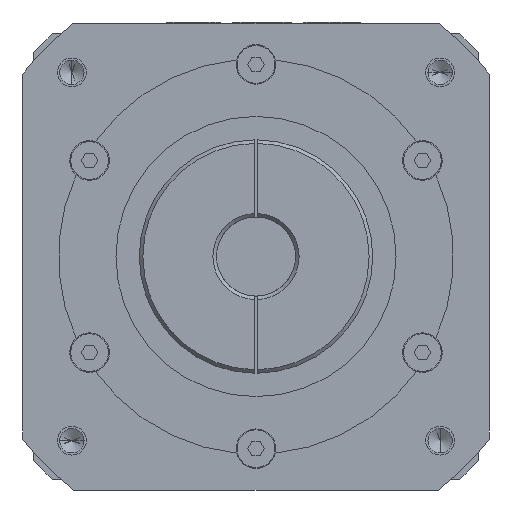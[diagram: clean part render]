
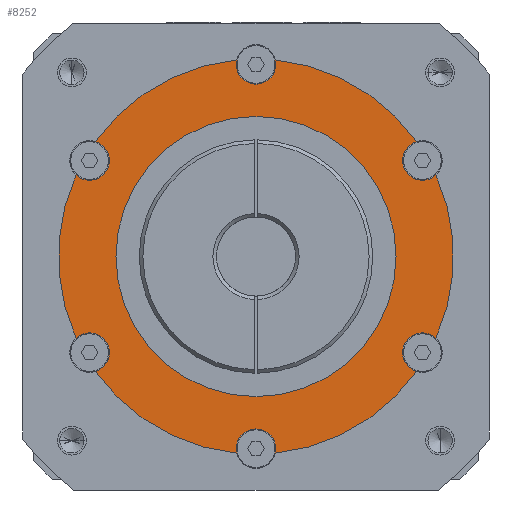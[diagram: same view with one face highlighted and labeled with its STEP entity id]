
A CAD part, left-side view. The second image highlights one B-rep face of the part: STEP entity #8252.
In plain terms, the highlighted planar face has unit normal (-1, 0, 0).
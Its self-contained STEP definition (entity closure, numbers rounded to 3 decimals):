
#2157=CARTESIAN_POINT('',(-148.,0.,0.));
#2158=DIRECTION('',(-1.,0.,0.));
#2159=DIRECTION('',(0.,0.097,0.995));
#2160=AXIS2_PLACEMENT_3D('',#2157,#2158,#2159);
#2187=CARTESIAN_POINT('',(-148.,0.,0.));
#2188=DIRECTION('',(-1.,0.,0.));
#2189=DIRECTION('',(0.,0.911,0.413));
#2190=AXIS2_PLACEMENT_3D('',#2187,#2188,#2189);
#2217=CARTESIAN_POINT('',(-148.,0.,0.));
#2218=DIRECTION('',(-1.,0.,0.));
#2219=DIRECTION('',(0.,0.813,-0.582));
#2220=AXIS2_PLACEMENT_3D('',#2217,#2218,#2219);
#2247=CARTESIAN_POINT('',(-148.,0.,0.));
#2248=DIRECTION('',(-1.,0.,0.));
#2249=DIRECTION('',(0.,-0.097,-0.995));
#2250=AXIS2_PLACEMENT_3D('',#2247,#2248,#2249);
#2277=CARTESIAN_POINT('',(-148.,0.,0.));
#2278=DIRECTION('',(-1.,0.,0.));
#2279=DIRECTION('',(0.,-0.911,-0.413));
#2280=AXIS2_PLACEMENT_3D('',#2277,#2278,#2279);
#2292=CARTESIAN_POINT('',(-148.,0.,0.));
#2293=DIRECTION('',(-1.,0.,0.));
#2294=DIRECTION('',(0.,-0.813,0.582));
#2295=AXIS2_PLACEMENT_3D('',#2292,#2293,#2294);
#2322=CARTESIAN_POINT('',(-148.,-46.332,26.75));
#2323=DIRECTION('',(-1.,0.,0.));
#2324=DIRECTION('',(0.,-0.5,-0.866));
#2325=AXIS2_PLACEMENT_3D('',#2322,#2323,#2324);
#2330=CARTESIAN_POINT('',(-148.,-46.332,-26.75));
#2331=DIRECTION('',(-1.,0.,0.));
#2332=DIRECTION('',(0.,-0.682,0.731));
#2333=AXIS2_PLACEMENT_3D('',#2330,#2331,#2332);
#2338=CARTESIAN_POINT('',(-148.,-46.332,-26.75));
#2339=DIRECTION('',(-1.,0.,0.));
#2340=DIRECTION('',(0.,-0.5,0.866));
#2341=AXIS2_PLACEMENT_3D('',#2338,#2339,#2340);
#2346=CARTESIAN_POINT('',(-148.,-46.332,-26.75));
#2347=DIRECTION('',(-1.,0.,0.));
#2348=DIRECTION('',(0.,0.5,-0.866));
#2349=AXIS2_PLACEMENT_3D('',#2346,#2347,#2348);
#2354=CARTESIAN_POINT('',(-148.,0.,-53.5));
#2355=DIRECTION('',(-1.,0.,0.));
#2356=DIRECTION('',(0.,-0.974,-0.225));
#2357=AXIS2_PLACEMENT_3D('',#2354,#2355,#2356);
#2362=CARTESIAN_POINT('',(-148.,0.,-53.5));
#2363=DIRECTION('',(-1.,0.,0.));
#2364=DIRECTION('',(0.,-1.,0.));
#2365=AXIS2_PLACEMENT_3D('',#2362,#2363,#2364);
#2370=CARTESIAN_POINT('',(-148.,0.,-53.5));
#2371=DIRECTION('',(-1.,0.,0.));
#2372=DIRECTION('',(0.,1.,0.));
#2373=AXIS2_PLACEMENT_3D('',#2370,#2371,#2372);
#2378=CARTESIAN_POINT('',(-148.,46.332,-26.75));
#2379=DIRECTION('',(-1.,0.,0.));
#2380=DIRECTION('',(0.,-0.292,-0.956));
#2381=AXIS2_PLACEMENT_3D('',#2378,#2379,#2380);
#2386=CARTESIAN_POINT('',(-148.,46.332,-26.75));
#2387=DIRECTION('',(-1.,0.,0.));
#2388=DIRECTION('',(0.,-0.5,-0.866));
#2389=AXIS2_PLACEMENT_3D('',#2386,#2387,#2388);
#2394=CARTESIAN_POINT('',(-148.,46.332,-26.75));
#2395=DIRECTION('',(-1.,0.,0.));
#2396=DIRECTION('',(0.,0.5,0.866));
#2397=AXIS2_PLACEMENT_3D('',#2394,#2395,#2396);
#2402=CARTESIAN_POINT('',(-148.,46.332,26.75));
#2403=DIRECTION('',(-1.,0.,0.));
#2404=DIRECTION('',(0.,0.682,-0.731));
#2405=AXIS2_PLACEMENT_3D('',#2402,#2403,#2404);
#2410=CARTESIAN_POINT('',(-148.,46.332,26.75));
#2411=DIRECTION('',(-1.,0.,0.));
#2412=DIRECTION('',(0.,0.5,-0.866));
#2413=AXIS2_PLACEMENT_3D('',#2410,#2411,#2412);
#2418=CARTESIAN_POINT('',(-148.,46.332,26.75));
#2419=DIRECTION('',(-1.,0.,0.));
#2420=DIRECTION('',(0.,-0.5,0.866));
#2421=AXIS2_PLACEMENT_3D('',#2418,#2419,#2420);
#2426=CARTESIAN_POINT('',(-148.,0.,53.5));
#2427=DIRECTION('',(-1.,0.,0.));
#2428=DIRECTION('',(0.,0.974,0.225));
#2429=AXIS2_PLACEMENT_3D('',#2426,#2427,#2428);
#2434=CARTESIAN_POINT('',(-148.,0.,53.5));
#2435=DIRECTION('',(-1.,0.,0.));
#2436=DIRECTION('',(0.,1.,0.));
#2437=AXIS2_PLACEMENT_3D('',#2434,#2435,#2436);
#2442=CARTESIAN_POINT('',(-148.,0.,53.5));
#2443=DIRECTION('',(-1.,0.,0.));
#2444=DIRECTION('',(0.,-1.,0.));
#2445=AXIS2_PLACEMENT_3D('',#2442,#2443,#2444);
#2450=CARTESIAN_POINT('',(-148.,-46.332,26.75));
#2451=DIRECTION('',(-1.,0.,0.));
#2452=DIRECTION('',(0.,0.292,0.956));
#2453=AXIS2_PLACEMENT_3D('',#2450,#2451,#2452);
#2458=CARTESIAN_POINT('',(-148.,-46.332,26.75));
#2459=DIRECTION('',(-1.,0.,0.));
#2460=DIRECTION('',(0.,0.5,0.866));
#2461=AXIS2_PLACEMENT_3D('',#2458,#2459,#2460);
#2466=CARTESIAN_POINT('',(-148.,0.,0.));
#2467=DIRECTION('',(-1.,0.,0.));
#2468=DIRECTION('',(0.,-1.,0.));
#2469=AXIS2_PLACEMENT_3D('',#2466,#2467,#2468);
#2474=CARTESIAN_POINT('',(-148.,0.,0.));
#2475=DIRECTION('',(-1.,0.,0.));
#2476=DIRECTION('',(0.,1.,0.));
#2477=AXIS2_PLACEMENT_3D('',#2474,#2475,#2476);
#5619=CARTESIAN_POINT('',(-148.,-5.5,53.5));
#5620=CARTESIAN_POINT('',(-148.,-5.359,54.738));
#5621=VERTEX_POINT('',#5619);
#5622=VERTEX_POINT('',#5620);
#5623=CARTESIAN_POINT('',(-148.,5.359,54.738));
#5624=CARTESIAN_POINT('',(-148.,5.5,53.5));
#5625=VERTEX_POINT('',#5623);
#5626=VERTEX_POINT('',#5624);
#5667=CARTESIAN_POINT('',(-148.,43.582,31.513));
#5668=CARTESIAN_POINT('',(-148.,44.725,32.01));
#5669=VERTEX_POINT('',#5667);
#5670=VERTEX_POINT('',#5668);
#5671=CARTESIAN_POINT('',(-148.,50.084,22.728));
#5672=CARTESIAN_POINT('',(-148.,49.082,21.987));
#5673=VERTEX_POINT('',#5671);
#5674=VERTEX_POINT('',#5672);
#5683=CARTESIAN_POINT('',(-148.,49.082,-21.987));
#5684=CARTESIAN_POINT('',(-148.,50.084,-22.728));
#5685=VERTEX_POINT('',#5683);
#5686=VERTEX_POINT('',#5684);
#5687=CARTESIAN_POINT('',(-148.,44.725,-32.01));
#5688=CARTESIAN_POINT('',(-148.,43.582,-31.513));
#5689=VERTEX_POINT('',#5687);
#5690=VERTEX_POINT('',#5688);
#5699=CARTESIAN_POINT('',(-148.,5.5,-53.5));
#5700=CARTESIAN_POINT('',(-148.,5.359,-54.738));
#5701=VERTEX_POINT('',#5699);
#5702=VERTEX_POINT('',#5700);
#5703=CARTESIAN_POINT('',(-148.,-5.359,-54.738));
#5704=CARTESIAN_POINT('',(-148.,-5.5,-53.5));
#5705=VERTEX_POINT('',#5703);
#5706=VERTEX_POINT('',#5704);
#5715=CARTESIAN_POINT('',(-148.,-43.582,-31.513));
#5716=CARTESIAN_POINT('',(-148.,-44.725,-32.01));
#5717=VERTEX_POINT('',#5715);
#5718=VERTEX_POINT('',#5716);
#5719=CARTESIAN_POINT('',(-148.,-50.084,-22.728));
#5720=CARTESIAN_POINT('',(-148.,-49.082,-21.987));
#5721=VERTEX_POINT('',#5719);
#5722=VERTEX_POINT('',#5720);
#5731=CARTESIAN_POINT('',(-148.,-49.082,21.987));
#5732=CARTESIAN_POINT('',(-148.,-50.084,22.728));
#5733=VERTEX_POINT('',#5731);
#5734=VERTEX_POINT('',#5732);
#5735=CARTESIAN_POINT('',(-148.,-44.725,32.01));
#5736=CARTESIAN_POINT('',(-148.,-43.582,31.513));
#5737=VERTEX_POINT('',#5735);
#5738=VERTEX_POINT('',#5736);
#5903=CARTESIAN_POINT('',(-148.,-39.,0.));
#5904=CARTESIAN_POINT('',(-148.,39.,0.));
#5905=VERTEX_POINT('',#5903);
#5906=VERTEX_POINT('',#5904);
#8201=CARTESIAN_POINT('',(-148.,0.,0.));
#8202=DIRECTION('',(-1.,0.,0.));
#8203=DIRECTION('',(0.,-1.,0.));
#8204=AXIS2_PLACEMENT_3D('',#8201,#8202,#8203);
#8205=PLANE('',#8204);
#8206=ORIENTED_EDGE('',*,*,#8077,.T.);
#8207=ORIENTED_EDGE('',*,*,#8161,.F.);
#8209=ORIENTED_EDGE('',*,*,#8208,.T.);
#8211=ORIENTED_EDGE('',*,*,#8210,.T.);
#8213=ORIENTED_EDGE('',*,*,#8212,.T.);
#8214=ORIENTED_EDGE('',*,*,#8147,.F.);
#8216=ORIENTED_EDGE('',*,*,#8215,.T.);
#8218=ORIENTED_EDGE('',*,*,#8217,.T.);
#8220=ORIENTED_EDGE('',*,*,#8219,.T.);
#8221=ORIENTED_EDGE('',*,*,#8132,.F.);
#8223=ORIENTED_EDGE('',*,*,#8222,.T.);
#8225=ORIENTED_EDGE('',*,*,#8224,.T.);
#8227=ORIENTED_EDGE('',*,*,#8226,.T.);
#8228=ORIENTED_EDGE('',*,*,#8117,.F.);
#8229=ORIENTED_EDGE('',*,*,#8195,.T.);
#8231=ORIENTED_EDGE('',*,*,#8230,.T.);
#8232=ORIENTED_EDGE('',*,*,#8187,.T.);
#8233=ORIENTED_EDGE('',*,*,#8102,.F.);
#8235=ORIENTED_EDGE('',*,*,#8234,.T.);
#8237=ORIENTED_EDGE('',*,*,#8236,.T.);
#8239=ORIENTED_EDGE('',*,*,#8238,.T.);
#8240=ORIENTED_EDGE('',*,*,#8172,.F.);
#8241=ORIENTED_EDGE('',*,*,#8085,.T.);
#8243=ORIENTED_EDGE('',*,*,#8242,.T.);
#8244=EDGE_LOOP('',(#8206,#8207,#8209,#8211,#8213,#8214,#8216,#8218,#8220,#8221,
#8223,#8225,#8227,#8228,#8229,#8231,#8232,#8233,#8235,#8237,#8239,#8240,#8241,
#8243));
#8245=FACE_OUTER_BOUND('',#8244,.F.);
#8247=ORIENTED_EDGE('',*,*,#8246,.T.);
#8249=ORIENTED_EDGE('',*,*,#8248,.T.);
#8250=EDGE_LOOP('',(#8247,#8249));
#8251=FACE_BOUND('',#8250,.F.);
#2161=CIRCLE('',#2160,55.);
#2191=CIRCLE('',#2190,55.);
#2221=CIRCLE('',#2220,55.);
#2251=CIRCLE('',#2250,55.);
#2281=CIRCLE('',#2280,55.);
#2296=CIRCLE('',#2295,55.);
#2326=CIRCLE('',#2325,5.5);
#2334=CIRCLE('',#2333,5.5);
#2342=CIRCLE('',#2341,5.5);
#2350=CIRCLE('',#2349,5.5);
#2358=CIRCLE('',#2357,5.5);
#2366=CIRCLE('',#2365,5.5);
#2374=CIRCLE('',#2373,5.5);
#2382=CIRCLE('',#2381,5.5);
#2390=CIRCLE('',#2389,5.5);
#2398=CIRCLE('',#2397,5.5);
#2406=CIRCLE('',#2405,5.5);
#2414=CIRCLE('',#2413,5.5);
#2422=CIRCLE('',#2421,5.5);
#2430=CIRCLE('',#2429,5.5);
#2438=CIRCLE('',#2437,5.5);
#2446=CIRCLE('',#2445,5.5);
#2454=CIRCLE('',#2453,5.5);
#2462=CIRCLE('',#2461,5.5);
#2470=CIRCLE('',#2469,39.);
#2478=CIRCLE('',#2477,39.);
#8077=EDGE_CURVE('',#5733,#5734,#2326,.T.);
#8085=EDGE_CURVE('',#5737,#5738,#2454,.T.);
#8102=EDGE_CURVE('',#5625,#5670,#2161,.T.);
#8117=EDGE_CURVE('',#5673,#5686,#2191,.T.);
#8132=EDGE_CURVE('',#5689,#5702,#2221,.T.);
#8147=EDGE_CURVE('',#5705,#5718,#2251,.T.);
#8161=EDGE_CURVE('',#5721,#5734,#2281,.T.);
#8172=EDGE_CURVE('',#5737,#5622,#2296,.T.);
#8187=EDGE_CURVE('',#5669,#5670,#2422,.T.);
#8195=EDGE_CURVE('',#5673,#5674,#2406,.T.);
#8208=EDGE_CURVE('',#5721,#5722,#2334,.T.);
#8210=EDGE_CURVE('',#5722,#5717,#2342,.T.);
#8212=EDGE_CURVE('',#5717,#5718,#2350,.T.);
#8215=EDGE_CURVE('',#5705,#5706,#2358,.T.);
#8217=EDGE_CURVE('',#5706,#5701,#2366,.T.);
#8219=EDGE_CURVE('',#5701,#5702,#2374,.T.);
#8222=EDGE_CURVE('',#5689,#5690,#2382,.T.);
#8224=EDGE_CURVE('',#5690,#5685,#2390,.T.);
#8226=EDGE_CURVE('',#5685,#5686,#2398,.T.);
#8230=EDGE_CURVE('',#5674,#5669,#2414,.T.);
#8234=EDGE_CURVE('',#5625,#5626,#2430,.T.);
#8236=EDGE_CURVE('',#5626,#5621,#2438,.T.);
#8238=EDGE_CURVE('',#5621,#5622,#2446,.T.);
#8242=EDGE_CURVE('',#5738,#5733,#2462,.T.);
#8246=EDGE_CURVE('',#5905,#5906,#2470,.T.);
#8248=EDGE_CURVE('',#5906,#5905,#2478,.T.);
#8252=ADVANCED_FACE('',(#8245,#8251),#8205,.T.);
